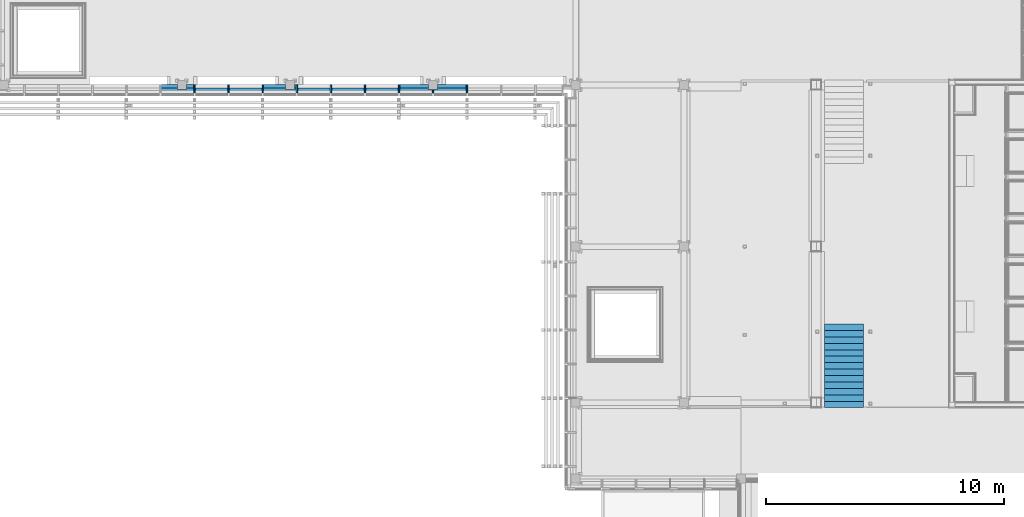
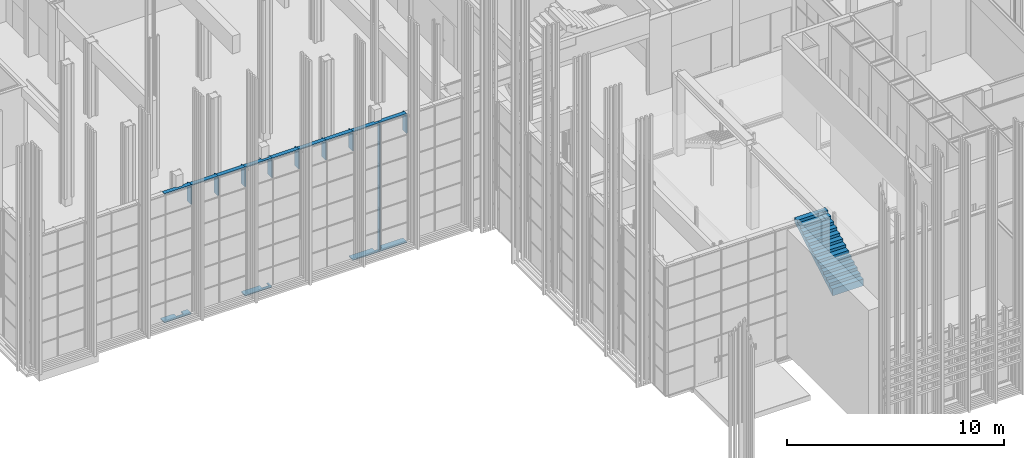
# One storey, part 71 of 260: 28 members, 2 elements without a shape of their own.
"""IFC2X3 building model written with IfcOpenShell, lengths in millimetres."""

from ifc_helpers import new_model, entity, si_unit, converted_unit, derived_unit, money_unit, direction, frame, origin_with_axes, place, context, subcontext, project, spatial, faceted_brep, material, type_object, element, aggregate, save


model = new_model("IFC2X3")

# Units and contexts
model_context = context("Model", 3, precision=0.01, world=origin_with_axes(), true_north=direction((0.0, 1.0)))
body_context = subcontext(model_context, "Body", "Model", "MODEL_VIEW")
ifc_project = project(units=[si_unit("LENGTHUNIT", "METRE", prefix="MILLI"), si_unit("AREAUNIT", "SQUARE_METRE"), si_unit("VOLUMEUNIT", "CUBIC_METRE"), converted_unit("PLANEANGLEUNIT", "DEGREE", entity("IfcPlaneAngleMeasure", 0.0174532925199), si_unit("PLANEANGLEUNIT", "RADIAN"), dimensions=[0, 0, 0, 0, 0, 0, 0]), money_unit("EUR"), converted_unit("TIMEUNIT", "Year", entity("IfcTimeMeasure", 31556926.0), si_unit("TIMEUNIT", "SECOND"), dimensions=[0, 0, 1, 0, 0, 0, 0]), si_unit("MASSUNIT", "GRAM", prefix="KILO"), si_unit("THERMODYNAMICTEMPERATUREUNIT", "DEGREE_CELSIUS"), si_unit("LUMINOUSINTENSITYUNIT", "LUMEN"), si_unit("ENERGYUNIT", "JOULE", prefix="MEGA"), derived_unit("THERMALCONDUCTANCEUNIT", [(si_unit("POWERUNIT", "WATT"), 1), (si_unit("LENGTHUNIT", "METRE"), -1), (si_unit("THERMODYNAMICTEMPERATUREUNIT", "KELVIN"), -1)]), derived_unit("SPECIFICHEATCAPACITYUNIT", [(si_unit("ENERGYUNIT", "JOULE"), 1), (si_unit("MASSUNIT", "GRAM", prefix="KILO"), -1), (si_unit("THERMODYNAMICTEMPERATUREUNIT", "KELVIN"), -1)]), derived_unit("MASSDENSITYUNIT", [(si_unit("MASSUNIT", "GRAM", prefix="KILO"), 1), (si_unit("VOLUMEUNIT", "CUBIC_METRE"), -1)])], contexts=[model_context])

# Site, building, storey
site_placement = place(None, origin_with_axes())
site = spatial("IfcSite", under=ifc_project, at=site_placement, Name="Kolde pst 67a", CompositionType="ELEMENT")
building_placement = place(site_placement, origin_with_axes())
building = spatial("IfcBuilding", under=site, at=building_placement, Name="Riigigümnaasium", CompositionType="ELEMENT")
storey_placement = place(building_placement, origin_with_axes())
storey = spatial("IfcBuildingStorey", under=building, at=storey_placement, Name="1. korrus", CompositionType="ELEMENT", Elevation=0.0)

# Stair, member
stair_placement = place(storey_placement, frame((58669.9488956, 10689.9598901, 0.0), z_axis=(0.0, 0.0, 1.0), x_axis=(1.0, 0.0, 0.0)))
stair = element("IfcStair", 1, at=stair_placement, inside=storey, Name="TREPP", ShapeType="NOTDEFINED")
ifc_material_1 = material(Name="_KANDETARIND - raudbetoon C25/30 vastavalt EK osale")
member_type_1 = type_object("IfcMemberType", Name="IfcMember", PredefinedType="USERDEFINED")
member_1_placement = place(stair_placement, origin_with_axes())
member_1 = element("IfcMember", 2, at=member_1_placement, type_object=member_type_1, material=ifc_material_1, Name="TT KONSTRUKTSIOON - 019", ObjectType="Stair Structure", context=body_context, shape_type="Brep", body=[
    faceted_brep([(1640.0, 180.0, -126.597194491), (1640.0, 270.0, -74.161297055), (1640.0, 360.0, -21.7253996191), (1640.0, 450.0, 30.7104978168), (1640.0, 540.0, 83.1463952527), (1640.0, 630.0, 135.582292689), (1640.0, 720.0, 188.018190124), (1640.0, 810.0, 240.45408756), (1640.0, 900.0, 292.889984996), (1640.0, 990.0, 345.325882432), (1640.0, 1080.0, 397.761779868), (1640.0, 1170.0, 450.197677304), (1640.0, 1260.0, 502.63357474), (1640.0, 1350.0, 555.069472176), (1640.0, 1440.0, 607.505369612), (1640.0, 1530.0, 659.941267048), (1640.0, 1620.0, 712.377164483), (1640.0, 1710.0, 764.813061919), (1640.0, 1800.0, 817.248959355), (1640.0, 1890.0, 869.684856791), (1640.0, 1980.0, 922.120754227), (1640.0, 2070.0, 974.556651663), (1640.0, 2160.0, 1026.9925491), (1640.0, 2250.0, 1079.42844653), (1640.0, 2340.0, 1131.86434397), (1640.0, 2430.0, 1184.30024141), (1640.0, 2520.0, 1236.73613884), (1640.0, 2610.0, 1289.17203628), (1640.0, 2700.0, 1341.60793371), (1640.0, 2790.0, 1394.04383115), (1640.0, 2880.0, 1446.47972859), (1640.0, 2970.0, 1498.91562602), (1640.0, 3060.0, 1551.35152346), (1640.0, 3150.0, 1603.78742089), (1640.0, 3240.0, 1656.22331833), (1640.0, 3330.0, 1708.65921577), (1640.0, 3420.0, 1761.0951132), (1640.0, 3510.0, 1813.53101064), (1640.0, 3510.0, 2045.0), (1640.0, 3240.0, 2045.0), (1640.0, 3240.0, 1887.69230769), (1640.0, 2970.0, 1887.69230769), (1640.0, 2970.0, 1730.38461538), (1640.0, 2700.0, 1730.38461538), (1640.0, 2700.0, 1573.07692308), (1640.0, 2430.0, 1573.07692308), (1640.0, 2430.0, 1415.76923077), (1640.0, 2160.0, 1415.76923077), (1640.0, 2160.0, 1258.46153846), (1640.0, 1890.0, 1258.46153846), (1640.0, 1890.0, 1101.15384615), (1640.0, 1620.0, 1101.15384615), (1640.0, 1620.0, 943.846153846), (1640.0, 1350.0, 943.846153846), (1640.0, 1350.0, 786.538461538), (1640.0, 1080.0, 786.538461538), (1640.0, 1080.0, 629.230769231), (1640.0, 810.0, 629.230769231), (1640.0, 810.0, 471.923076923), (1640.0, 540.0, 471.923076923), (1640.0, 540.0, 314.615384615), (1640.0, 270.0, 314.615384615), (1640.0, 270.0, 157.307692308), (1640.0, 0.0, 157.307692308), (1640.0, 0.0, -231.468989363), (1640.0, 90.0, -179.033091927), (0.0, 180.0, -126.597194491), (0.0, 270.0, -74.161297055), (0.0, 360.0, -21.7253996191), (0.0, 450.0, 30.7104978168), (0.0, 540.0, 83.1463952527), (0.0, 630.0, 135.582292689), (0.0, 720.0, 188.018190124), (0.0, 810.0, 240.45408756), (0.0, 900.0, 292.889984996), (0.0, 990.0, 345.325882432), (0.0, 1080.0, 397.761779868), (0.0, 1170.0, 450.197677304), (0.0, 1260.0, 502.63357474), (0.0, 1350.0, 555.069472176), (0.0, 1440.0, 607.505369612), (0.0, 1530.0, 659.941267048), (0.0, 1620.0, 712.377164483), (0.0, 1710.0, 764.813061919), (0.0, 1800.0, 817.248959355), (0.0, 1890.0, 869.684856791), (0.0, 1980.0, 922.120754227), (0.0, 2070.0, 974.556651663), (0.0, 2160.0, 1026.9925491), (0.0, 2250.0, 1079.42844653), (0.0, 2340.0, 1131.86434397), (0.0, 2430.0, 1184.30024141), (0.0, 2520.0, 1236.73613884), (0.0, 2610.0, 1289.17203628), (0.0, 2700.0, 1341.60793371), (0.0, 2790.0, 1394.04383115), (0.0, 2880.0, 1446.47972859), (0.0, 2970.0, 1498.91562602), (0.0, 3060.0, 1551.35152346), (0.0, 3150.0, 1603.78742089), (0.0, 3240.0, 1656.22331833), (0.0, 3330.0, 1708.65921577), (0.0, 3420.0, 1761.0951132), (0.0, 3510.0, 1813.53101064), (0.0, 3510.0, 2045.0), (0.0, 3240.0, 2045.0), (0.0, 3240.0, 1887.69230769), (0.0, 2970.0, 1887.69230769), (0.0, 2970.0, 1730.38461538), (0.0, 2700.0, 1730.38461538), (0.0, 2700.0, 1573.07692308), (0.0, 2430.0, 1573.07692308), (0.0, 2430.0, 1415.76923077), (0.0, 2160.0, 1415.76923077), (0.0, 2160.0, 1258.46153846), (0.0, 1890.0, 1258.46153846), (0.0, 1890.0, 1101.15384615), (0.0, 1620.0, 1101.15384615), (0.0, 1620.0, 943.846153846), (0.0, 1350.0, 943.846153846), (0.0, 1350.0, 786.538461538), (0.0, 1080.0, 786.538461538), (0.0, 1080.0, 629.230769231), (0.0, 810.0, 629.230769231), (0.0, 810.0, 471.923076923), (0.0, 540.0, 471.923076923), (0.0, 540.0, 314.615384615), (0.0, 270.0, 314.615384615), (0.0, 270.0, 157.307692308), (0.0, 0.0, 157.307692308), (0.0, 0.0, -231.468989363), (0.0, 90.0, -179.033091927)], [[[0, 1, 2, 3, 4, 5, 6, 7, 8, 9, 10, 11, 12, 13, 14, 15, 16, 17, 18, 19, 20, 21, 22, 23, 24, 25, 26, 27, 28, 29, 30, 31, 32, 33, 34, 35, 36, 37, 38, 39, 40, 41, 42, 43, 44, 45, 46, 47, 48, 49, 50, 51, 52, 53, 54, 55, 56, 57, 58, 59, 60, 61, 62, 63, 64, 65]], [[66, 67, 1, 0]], [[67, 68, 2, 1]], [[68, 69, 3, 2]], [[69, 70, 4, 3]], [[70, 71, 5, 4]], [[71, 72, 6, 5]], [[72, 73, 7, 6]], [[73, 74, 8, 7]], [[74, 75, 9, 8]], [[75, 76, 10, 9]], [[76, 77, 11, 10]], [[77, 78, 12, 11]], [[78, 79, 13, 12]], [[79, 80, 14, 13]], [[80, 81, 15, 14]], [[81, 82, 16, 15]], [[82, 83, 17, 16]], [[83, 84, 18, 17]], [[84, 85, 19, 18]], [[85, 86, 20, 19]], [[86, 87, 21, 20]], [[87, 88, 22, 21]], [[88, 89, 23, 22]], [[89, 90, 24, 23]], [[90, 91, 25, 24]], [[91, 92, 26, 25]], [[92, 93, 27, 26]], [[93, 94, 28, 27]], [[94, 95, 29, 28]], [[95, 96, 30, 29]], [[96, 97, 31, 30]], [[97, 98, 32, 31]], [[98, 99, 33, 32]], [[99, 100, 34, 33]], [[100, 101, 35, 34]], [[101, 102, 36, 35]], [[102, 103, 37, 36]], [[104, 38, 37, 103]], [[105, 39, 38, 104]], [[105, 106, 40, 39]], [[41, 40, 106, 107]], [[107, 108, 42, 41]], [[43, 42, 108, 109]], [[109, 110, 44, 43]], [[45, 44, 110, 111]], [[111, 112, 46, 45]], [[47, 46, 112, 113]], [[113, 114, 48, 47]], [[49, 48, 114, 115]], [[115, 116, 50, 49]], [[51, 50, 116, 117]], [[117, 118, 52, 51]], [[53, 52, 118, 119]], [[119, 120, 54, 53]], [[55, 54, 120, 121]], [[121, 122, 56, 55]], [[57, 56, 122, 123]], [[123, 124, 58, 57]], [[59, 58, 124, 125]], [[125, 126, 60, 59]], [[61, 60, 126, 127]], [[127, 128, 62, 61]], [[63, 62, 128, 129]], [[63, 129, 130, 64]], [[130, 131, 65, 64]], [[131, 66, 0, 65]], [[101, 100, 99, 98, 97, 96, 95, 94, 93, 92, 91, 90, 89, 88, 87, 86, 85, 84, 83, 82, 81, 80, 79, 78, 77, 76, 75, 74, 73, 72, 71, 70, 69, 68, 67, 66, 131, 130, 129, 128, 127, 126, 125, 124, 123, 122, 121, 120, 119, 118, 117, 116, 115, 114, 113, 112, 111, 110, 109, 108, 107, 106, 105, 104, 103, 102]]]),
])
aggregate(stair, [member_1])

# Curtain wall, members
curtain_wall_type = type_object("IfcCurtainWallType", Name="Curtain Wall Type", PredefinedType="NOTDEFINED")
curtain_wall_placement = place(storey_placement, frame((23890.0026791, 27220.1832522, -0.000253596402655), z_axis=(0.0, 0.0, 1.0), x_axis=(1.0, 0.0, 0.0)))
curtain_wall = element("IfcCurtainWall", 3, at=curtain_wall_placement, inside=storey, type_object=curtain_wall_type, Name="Klaasfassaadi puitkarkass")
ifc_material_2 = material(Name="_KANDETARIND - liimpuit vastavalt EK osale")
member_type_2 = type_object("IfcMemberType", Name="Boundary Frame 60 x 360", PredefinedType="MEMBER")
member_2_placement = place(curtain_wall_placement, frame((19789.3770557, -3330.16844545, 0.000124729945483), z_axis=(-1.0, 0.0, 0.0), x_axis=(0.0, 0.0, 1.0)))
member_2 = element("IfcMember", 4, at=member_2_placement, type_object=member_type_2, material=ifc_material_2, Name="RF RAAM SERV-665", ObjectType="MEMBER", context=body_context, shape_type="Brep", body=[
    faceted_brep([(0.000128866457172, 360.0, 1249.38050477), (60.0, 360.0, 1249.38050477), (60.0, 360.0, 0.0), (0.0, 360.0, 0.0), (60.0, 150.255589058, 1249.38050479), (0.000128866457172, 150.255589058, 1249.38050479), (60.0, 150.255589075, 1430.0), (60.0, 0.0, 1430.0), (60.0, 0.0, 0.0), (0.0, 0.0, 0.0), (0.0, 0.0, 1430.0), (0.000128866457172, 150.255589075, 1430.0)], [[[0, 1, 2, 3]], [[4, 1, 0, 5]], [[4, 6, 7, 8, 2, 1]], [[3, 2, 8, 9]], [[5, 0, 3, 9, 10, 11]], [[6, 4, 5, 11]], [[6, 11, 10, 7]], [[9, 8, 7, 10]]]),
])
member_3_placement = place(curtain_wall_placement, frame((18359.3770557, -3330.16844558, 0.000124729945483), z_axis=(-1.0, 0.0, 0.0), x_axis=(0.0, 0.0, 1.0)))
member_3 = element("IfcMember", 5, at=member_3_placement, type_object=member_type_2, material=ifc_material_2, Name="RF RAAM SERV-666", ObjectType="MEMBER", context=body_context, shape_type="Brep", body=[
    faceted_brep([(0.000128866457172, 150.255589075, 0.0), (60.0, 150.255589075, 0.0), (60.0, 0.0, 0.0), (0.0, 0.0, 0.0), (60.0, 150.255589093, 199.380504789), (0.000128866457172, 150.255589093, 199.380504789), (60.0, 360.0, 199.38050477), (60.0, 360.0, 1430.0), (60.0, 0.0, 1430.0), (0.0, 0.0, 1430.0), (0.0, 360.0, 1430.0), (0.000128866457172, 360.0, 199.38050477)], [[[0, 1, 2, 3]], [[4, 1, 0, 5]], [[4, 6, 7, 8, 2, 1]], [[3, 2, 8, 9]], [[5, 0, 3, 9, 10, 11]], [[11, 6, 4, 5]], [[6, 11, 10, 7]], [[8, 7, 10, 9]]]),
])
member_4_placement = place(curtain_wall_placement, frame((12639.3770557, -3330.1684461, 0.000124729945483), z_axis=(-1.0, 0.0, 0.0), x_axis=(0.0, 0.0, 1.0)))
member_4 = element("IfcMember", 6, at=member_4_placement, type_object=member_type_2, material=ifc_material_2, Name="RF RAAM SERV-670", ObjectType="MEMBER", context=body_context, shape_type="Brep", body=[
    faceted_brep([(0.000128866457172, 360.0, 89.38050477), (60.0, 360.0, 89.38050477), (60.0, 360.0, 0.0), (0.0, 360.0, 0.0), (60.0, 150.255589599, 89.3805047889), (0.000128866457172, 150.255589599, 89.3805047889), (60.0, 150.255589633, 469.380504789), (60.0, 360.0, 469.38050477), (60.0, 360.0, 1430.0), (60.0, 0.0, 1430.0), (60.0, 0.0, 0.0), (0.0, 0.0, 0.0), (0.0, 0.0, 1430.0), (0.0, 360.0, 1430.0), (0.000128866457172, 360.0, 469.38050477), (0.000128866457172, 150.255589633, 469.380504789)], [[[0, 1, 2, 3]], [[4, 1, 0, 5]], [[6, 7, 8, 9, 10, 2, 1, 4]], [[3, 2, 10, 11]], [[5, 0, 3, 11, 12, 13, 14, 15]], [[6, 4, 5, 15]], [[14, 7, 6, 15]], [[7, 14, 13, 8]], [[9, 8, 13, 12]], [[11, 10, 9, 12]]]),
])
member_5_placement = place(curtain_wall_placement, frame((8349.37705572, -3330.16844648, 0.000124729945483), z_axis=(-1.0, 0.0, 0.0), x_axis=(0.0, 0.0, 1.0)))
member_5 = element("IfcMember", 7, at=member_5_placement, type_object=member_type_2, material=ifc_material_2, Name="RF RAAM SERV-673", ObjectType="MEMBER", context=body_context, shape_type="Brep", body=[
    faceted_brep([(0.000128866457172, 360.0, 349.376955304), (60.0, 360.0, 349.376955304), (60.0, 360.0, 0.0), (0.0, 360.0, 0.0), (60.0, 150.255590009, 349.376955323), (0.000128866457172, 150.255590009, 349.376955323), (60.0, 150.255590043, 729.376955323), (60.0, 360.0, 729.376955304), (60.0, 360.0, 1430.0), (60.0, 0.0, 1430.0), (60.0, 0.0, 0.0), (0.0, 0.0, 0.0), (0.0, 0.0, 1430.0), (0.0, 360.0, 1430.0), (0.000128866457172, 360.0, 729.376955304), (0.000128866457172, 150.255590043, 729.376955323)], [[[0, 1, 2, 3]], [[4, 1, 0, 5]], [[6, 7, 8, 9, 10, 2, 1, 4]], [[3, 2, 10, 11]], [[5, 0, 3, 11, 12, 13, 14, 15]], [[6, 4, 5, 15]], [[14, 7, 6, 15]], [[7, 14, 13, 8]], [[9, 8, 13, 12]], [[11, 10, 9, 12]]]),
])
member_6_placement = place(curtain_wall_placement, frame((18359.3770557, -3330.16844558, 7259.99988018), z_axis=(1.0, 0.0, -9.10009721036e-09), x_axis=(-9.10009721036e-09, 0.0, -1.0)))
member_6 = element("IfcMember", 8, at=member_6_placement, type_object=member_type_2, material=ifc_material_2, Name="RF RAAM SERV-698", ObjectType="MEMBER", context=body_context, shape_type="Brep", body=[
    faceted_brep([(59.9996135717, 220.194597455, 1430.00000055), (-1.30131390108e-05, 220.194597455, 1430.0), (-1.30131390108e-05, 0.0, 1430.0), (59.9999869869, 0.0, 1430.00000055), (-1.64360169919e-06, 220.255588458, 180.613637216), (59.9996249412, 220.255588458, 180.613637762), (-1.64365498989e-06, 150.255589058, 180.619495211), (0.0, 150.255589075, 0.0), (0.0, 0.0, 0.0), (60.0, 0.0, 5.46009459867e-07), (60.0, 150.255589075, 5.46009459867e-07), (59.9999983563, 150.255589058, 180.619495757)], [[[0, 1, 2, 3]], [[4, 1, 0, 5]], [[1, 4, 6, 7, 8, 2]], [[9, 3, 2, 8]], [[5, 0, 3, 9, 10, 11]], [[4, 5, 11, 6]], [[6, 11, 10, 7]], [[10, 9, 8, 7]]]),
])
member_7_placement = place(curtain_wall_placement, frame((16929.3770557, -3330.16844571, 7259.99989319), z_axis=(1.0, 0.0, -9.10009721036e-09), x_axis=(-9.10009721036e-09, 0.0, -1.0)))
member_7 = element("IfcMember", 9, at=member_7_placement, type_object=member_type_2, material=ifc_material_2, Name="RF RAAM SERV-697", ObjectType="MEMBER", context=body_context, shape_type="Brep", body=[
    faceted_brep([(59.9996283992, 220.255589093, 1230.61949576), (-1.11987565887e-05, 220.255589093, 1230.61949522), (-1.11987565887e-05, 150.255589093, 1230.61949521), (59.9999888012, 150.255589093, 1230.61949576), (0.0, 220.255589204, 0.0), (59.9996395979, 220.255589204, 5.4600235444e-07), (0.0, 0.0, 0.0), (-1.30131390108e-05, 0.0, 1430.0), (-1.30131390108e-05, 150.255589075, 1430.0), (59.9999869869, 150.255589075, 1430.00000055), (59.9999869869, 0.0, 1430.00000055), (60.0, 0.0, 5.46009459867e-07)], [[[0, 1, 2, 3]], [[4, 1, 0, 5]], [[1, 4, 6, 7, 8, 2]], [[3, 2, 8, 9]], [[5, 0, 3, 9, 10, 11]], [[4, 5, 11, 6]], [[7, 6, 11, 10]], [[10, 9, 8, 7]]]),
])
member_8_placement = place(curtain_wall_placement, frame((15499.3770557, -3330.16844584, 7259.99990621), z_axis=(1.0, 0.0, -9.10009721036e-09), x_axis=(-9.10009721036e-09, 0.0, -1.0)))
member_8 = element("IfcMember", 10, at=member_8_placement, type_object=member_type_2, material=ifc_material_2, Name="RF RAAM SERV-696", ObjectType="MEMBER", context=body_context, shape_type="Brep", body=[
    faceted_brep([(59.9996395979, 220.255589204, 1430.00000055), (-1.30131390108e-05, 220.255589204, 1430.0), (-1.30131390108e-05, 0.0, 1430.0), (59.9999869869, 0.0, 1430.00000055), (0.0, 220.255589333, 0.0), (59.9996526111, 220.255589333, 5.4600235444e-07), (0.0, 0.0, 0.0), (60.0, 0.0, 5.46009459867e-07)], [[[0, 1, 2, 3]], [[4, 1, 0, 5]], [[1, 4, 6, 2]], [[6, 7, 3, 2]], [[5, 0, 3, 7]], [[4, 5, 7, 6]]]),
])
member_9_placement = place(curtain_wall_placement, frame((14069.3770557, -3330.16844597, 7259.99991922), z_axis=(1.0, 0.0, -9.10009658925e-09), x_axis=(-9.10009658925e-09, 0.0, -1.0)))
member_9 = element("IfcMember", 11, at=member_9_placement, type_object=member_type_2, material=ifc_material_2, Name="RF RAAM SERV-695", ObjectType="MEMBER", context=body_context, shape_type="Brep", body=[
    faceted_brep([(59.9996526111, 220.255589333, 1430.00000055), (-1.30131381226e-05, 220.255589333, 1430.0), (-1.30131381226e-05, 0.0, 1430.0), (59.9999869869, 0.0, 1430.00000055), (0.0, 220.255589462, 0.0), (59.9996656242, 220.255589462, 5.4600235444e-07), (0.0, 0.0, 0.0), (60.0, 0.0, 5.4600235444e-07)], [[[0, 1, 2, 3]], [[4, 1, 0, 5]], [[1, 4, 6, 2]], [[6, 7, 3, 2]], [[5, 0, 3, 7]], [[4, 5, 7, 6]]]),
])
member_10_placement = place(curtain_wall_placement, frame((12639.3770557, -3330.1684461, 7259.99993223), z_axis=(1.0, 0.0, -9.10009721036e-09), x_axis=(-9.10009721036e-09, 0.0, -1.0)))
member_10 = element("IfcMember", 12, at=member_10_placement, type_object=member_type_2, material=ifc_material_2, Name="RF RAAM SERV-694", ObjectType="MEMBER", context=body_context, shape_type="Brep", body=[
    faceted_brep([(59.9996656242, 220.255589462, 1430.00000055), (-1.30131390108e-05, 220.255589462, 1430.0), (-1.30131390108e-05, 0.0, 1430.0), (59.9999869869, 0.0, 1430.00000055), (0.0, 220.255589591, 0.0), (59.9996786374, 220.255589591, 5.4600235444e-07), (0.0, 0.0, 0.0), (60.0, 0.0, 5.46009459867e-07)], [[[0, 1, 2, 3]], [[4, 1, 0, 5]], [[1, 4, 6, 2]], [[6, 7, 3, 2]], [[5, 0, 3, 7]], [[4, 5, 7, 6]]]),
])
member_11_placement = place(curtain_wall_placement, frame((11209.3770557, -3330.16844623, 7259.99994525), z_axis=(1.0, 0.0, -9.10009721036e-09), x_axis=(-9.10009721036e-09, 0.0, -1.0)))
member_11 = element("IfcMember", 13, at=member_11_placement, type_object=member_type_2, material=ifc_material_2, Name="RF RAAM SERV-693", ObjectType="MEMBER", context=body_context, shape_type="Brep", body=[
    faceted_brep([(59.9996786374, 220.255589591, 1430.00000055), (-1.30131390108e-05, 220.255589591, 1430.0), (-1.30131390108e-05, 0.0, 1430.0), (59.9999869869, 0.0, 1430.00000055), (-1.21997674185e-05, 220.255589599, 1340.61949522), (59.9996794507, 220.255589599, 1340.61949576), (-1.21997674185e-05, 150.255589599, 1340.61949521), (-8.74173089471e-06, 150.255589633, 960.619495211), (-8.74173089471e-06, 360.0, 960.61949523), (-8.73242811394e-06, 360.0, 959.597297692), (-8.73242811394e-06, 220.255589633, 959.597297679), (0.0, 220.25558972, 0.0), (0.0, 0.0, 0.0), (60.0, 0.0, 5.46009459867e-07), (59.9996916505, 220.25558972, 5.4600235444e-07), (59.9996829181, 220.255589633, 959.597298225), (59.9996829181, 360.0, 959.597298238), (59.9999912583, 360.0, 960.619495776), (59.9999912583, 150.255589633, 960.619495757), (59.9999878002, 150.255589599, 1340.61949576)], [[[0, 1, 2, 3]], [[4, 1, 0, 5]], [[1, 4, 6, 7, 8, 9, 10, 11, 12, 2]], [[3, 2, 12, 13]], [[5, 0, 3, 13, 14, 15, 16, 17, 18, 19]], [[4, 5, 19, 6]], [[19, 18, 7, 6]], [[7, 18, 17, 8]], [[17, 16, 9, 8]], [[15, 10, 9, 16]], [[14, 11, 10, 15]], [[12, 11, 14, 13]]]),
])
member_12_placement = place(curtain_wall_placement, frame((9779.37705572, -3330.16844635, 7259.99995826), z_axis=(1.0, 0.0, -9.10009596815e-09), x_axis=(-9.10009596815e-09, 0.0, -1.0)))
member_12 = element("IfcMember", 14, at=member_12_placement, type_object=member_type_2, material=ifc_material_2, Name="RF RAAM SERV-692", ObjectType="MEMBER", context=body_context, shape_type="Brep", body=[
    faceted_brep([(59.9996916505, 220.25558972, 1430.00000055), (-1.30131372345e-05, 220.25558972, 1430.0), (-1.30131372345e-05, 0.0, 1430.0), (59.9999869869, 0.0, 1430.00000055), (0.0, 220.255589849, 0.0), (59.9997046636, 220.255589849, 5.46009459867e-07), (0.0, 0.0, 0.0), (60.0, 0.0, 5.46009459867e-07)], [[[0, 1, 2, 3]], [[4, 1, 0, 5]], [[1, 4, 6, 2]], [[6, 7, 3, 2]], [[5, 0, 3, 7]], [[4, 5, 7, 6]]]),
])
member_13_placement = place(curtain_wall_placement, frame((8349.37705572, -3330.16844648, 7259.99997127), z_axis=(1.0, 0.0, -9.10009845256e-09), x_axis=(-9.10009845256e-09, 0.0, -1.0)))
member_13 = element("IfcMember", 15, at=member_13_placement, type_object=member_type_2, material=ifc_material_2, Name="RF RAAM SERV-691", ObjectType="MEMBER", context=body_context, shape_type="Brep", body=[
    faceted_brep([(59.9997046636, 220.255589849, 1430.00000055), (-1.30131407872e-05, 220.255589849, 1430.0), (-1.30131407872e-05, 0.0, 1430.0), (59.9999869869, 0.0, 1430.00000055), (0.0, 220.255589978, 0.0), (59.9997176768, 220.255589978, 5.4600235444e-07), (0.0, 0.0, 0.0), (60.0, 0.0, 5.4600235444e-07)], [[[0, 1, 2, 3]], [[4, 1, 0, 5]], [[1, 4, 6, 2]], [[6, 7, 3, 2]], [[5, 0, 3, 7]], [[4, 5, 7, 6]]]),
])
member_14_placement = place(curtain_wall_placement, frame((6919.37705572, -3330.16844661, 7259.99998429), z_axis=(1.0, 0.0, -9.10009596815e-09), x_axis=(-9.10009596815e-09, 0.0, -1.0)))
member_14 = element("IfcMember", 16, at=member_14_placement, type_object=member_type_2, material=ifc_material_2, Name="RF RAAM SERV-690", ObjectType="MEMBER", context=body_context, shape_type="Brep", body=[
    faceted_brep([(59.9997176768, 220.255589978, 1430.00000055), (-1.30131372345e-05, 220.255589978, 1430.0), (-1.30131372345e-05, 0.0, 1430.0), (59.9999869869, 0.0, 1430.00000055), (-9.83377290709e-06, 220.255590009, 1080.62304468), (59.9997208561, 220.255590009, 1080.62304523), (-9.83377290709e-06, 150.255590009, 1080.62304468), (-6.37573638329e-06, 150.255590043, 700.623044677), (-6.37573638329e-06, 220.255590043, 700.623044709), (0.0, 220.255589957, 0.0), (0.0, 0.0, 0.0), (60.0, 0.0, 5.46005907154e-07), (59.9997369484, 220.255589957, 5.4600235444e-07), (59.9997305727, 220.255590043, 700.623045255), (59.9999936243, 150.255590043, 700.623045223), (59.9999901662, 150.255590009, 1080.62304522)], [[[0, 1, 2, 3]], [[4, 1, 0, 5]], [[1, 4, 6, 7, 8, 9, 10, 2]], [[3, 2, 10, 11]], [[5, 0, 3, 11, 12, 13, 14, 15]], [[4, 5, 15, 6]], [[15, 14, 7, 6]], [[14, 13, 8, 7]], [[12, 9, 8, 13]], [[10, 9, 12, 11]]]),
])
member_type_3 = type_object("IfcMemberType", Name="Mullion Frame 60 x 360", PredefinedType="MEMBER")
member_15_placement = place(curtain_wall_placement, frame((18359.3770557, -3330.16844558, 0.000124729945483), z_axis=(0.0, 0.0, 1.0), x_axis=(1.0, 0.0, 0.0)))
member_15 = element("IfcMember", 17, at=member_15_placement, type_object=member_type_3, material=ifc_material_2, Name="RF RAAM VERT-837", ObjectType="MEMBER", context=body_context, shape_type="Brep", body=[
    faceted_brep([(30.0000000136, 150.255589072, 60.0), (30.0000000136, 150.255589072, 1230.0002536), (30.0, -2.70716782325e-09, 1230.0002536), (30.0, -2.70716782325e-09, 60.0), (-29.9999999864, 150.255589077, 1230.0002536), (-29.9999999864, 150.255589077, 60.0), (-30.0, 2.70361510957e-09, 1230.0002536), (-30.0, 2.70361510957e-09, 60.0)], [[[0, 1, 2, 3]], [[4, 1, 0, 5]], [[1, 4, 6, 2]], [[6, 7, 3, 2]], [[5, 0, 3, 7]], [[4, 5, 7, 6]]]),
])
member_16_placement = place(curtain_wall_placement, frame((18359.3770557, -3330.16844558, 1230.0002536), z_axis=(0.0, 0.0, 1.0), x_axis=(1.0, 0.0, 0.0)))
member_16 = element("IfcMember", 18, at=member_16_placement, type_object=member_type_3, material=ifc_material_2, Name="RF RAAM VERT-837", ObjectType="MEMBER", context=body_context, shape_type="Brep", body=[
    faceted_brep([(30.0000000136, 150.255589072, 0.0), (30.0000000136, 150.255589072, 1230.0), (30.0, -2.70716782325e-09, 1230.0), (30.0, -2.70716782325e-09, 0.0), (-29.9999999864, 150.255589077, 1230.0), (-29.9999999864, 150.255589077, 0.0), (-30.0, 2.70361510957e-09, 1230.0), (-30.0, 2.70361510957e-09, 0.0)], [[[0, 1, 2, 3]], [[4, 1, 0, 5]], [[1, 4, 6, 2]], [[7, 3, 2, 6]], [[5, 0, 3, 7]], [[4, 5, 7, 6]]]),
])
member_17_placement = place(curtain_wall_placement, frame((18359.3770557, -3330.16844558, 2460.0002536), z_axis=(0.0, 0.0, 1.0), x_axis=(1.0, 0.0, 0.0)))
member_17 = element("IfcMember", 19, at=member_17_placement, type_object=member_type_3, material=ifc_material_2, Name="RF RAAM VERT-837", ObjectType="MEMBER", context=body_context, shape_type="Brep", body=[
    faceted_brep([(30.0000000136, 150.255589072, 0.0), (30.0000000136, 150.255589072, 1230.0), (30.0, -2.70716782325e-09, 1230.0), (30.0, -2.70716782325e-09, 0.0), (-29.9999999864, 150.255589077, 1230.0), (-29.9999999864, 150.255589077, 0.0), (-30.0, 2.70361510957e-09, 1230.0), (-30.0, 2.70361510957e-09, 0.0)], [[[0, 1, 2, 3]], [[4, 1, 0, 5]], [[1, 4, 6, 2]], [[7, 3, 2, 6]], [[5, 0, 3, 7]], [[4, 5, 7, 6]]]),
])
member_18_placement = place(curtain_wall_placement, frame((18359.3770557, -3330.16844558, 3690.0002536), z_axis=(0.0, 0.0, 1.0), x_axis=(1.0, 0.0, 0.0)))
member_18 = element("IfcMember", 20, at=member_18_placement, type_object=member_type_3, material=ifc_material_2, Name="RF RAAM VERT-837", ObjectType="MEMBER", context=body_context, shape_type="Brep", body=[
    faceted_brep([(30.0000000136, 150.255589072, 0.0), (30.0000000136, 150.255589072, 1230.0), (30.0, -2.70716782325e-09, 1230.0), (30.0, -2.70716782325e-09, 0.0), (-29.9999999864, 150.255589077, 1230.0), (-29.9999999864, 150.255589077, 0.0), (-30.0, 2.70361510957e-09, 1230.0), (-30.0, 2.70361510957e-09, 0.0)], [[[0, 1, 2, 3]], [[4, 1, 0, 5]], [[1, 4, 6, 2]], [[7, 3, 2, 6]], [[5, 0, 3, 7]], [[4, 5, 7, 6]]]),
])
member_19_placement = place(curtain_wall_placement, frame((18359.3770557, -3330.16844558, 4920.0002536), z_axis=(0.0, 0.0, 1.0), x_axis=(1.0, 0.0, 0.0)))
member_19 = element("IfcMember", 21, at=member_19_placement, type_object=member_type_3, material=ifc_material_2, Name="RF RAAM VERT-837", ObjectType="MEMBER", context=body_context, shape_type="Brep", body=[
    faceted_brep([(30.0000000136, 150.255589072, 0.0), (30.0000000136, 150.255589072, 1230.0), (30.0, -2.70716782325e-09, 1230.0), (30.0, -2.70716782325e-09, 0.0), (-29.9999999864, 150.255589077, 1230.0), (-29.9999999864, 150.255589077, 0.0), (-30.0, 2.70361510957e-09, 1230.0), (-30.0, 2.70361510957e-09, 0.0)], [[[0, 1, 2, 3]], [[4, 1, 0, 5]], [[1, 4, 6, 2]], [[7, 3, 2, 6]], [[5, 0, 3, 7]], [[4, 5, 7, 6]]]),
])
member_20_placement = place(curtain_wall_placement, frame((19789.3770557, -3330.16844545, 6150.0002536), z_axis=(0.0, 0.0, 1.0), x_axis=(1.0, 0.0, 0.0)))
member_20 = element("IfcMember", 22, at=member_20_placement, type_object=member_type_3, material=ifc_material_2, Name="RF RAAM VERT-155", ObjectType="MEMBER", context=body_context, shape_type="Brep", body=[
    faceted_brep([(30.0, -2.70716782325e-09, 0.0), (30.0000000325, 359.999999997, 0.0), (30.0000000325, 359.999999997, 1049.99958427), (30.0, -2.70716782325e-09, 1049.99958755), (-29.9999999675, 360.000000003, 0.0), (-30.0, 2.70716782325e-09, 0.0), (-29.9999999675, 360.000000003, 1049.99958427), (-30.0, 2.70716782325e-09, 1049.99958755)], [[[0, 1, 2, 3]], [[4, 1, 0, 5]], [[1, 4, 6, 2]], [[3, 2, 6, 7]], [[5, 0, 3, 7]], [[4, 5, 7, 6]]]),
])
member_21_placement = place(curtain_wall_placement, frame((18359.3770557, -3330.16844558, 6150.0002536), z_axis=(0.0, 0.0, 1.0), x_axis=(1.0, 0.0, 0.0)))
member_21 = element("IfcMember", 23, at=member_21_placement, type_object=member_type_3, material=ifc_material_2, Name="RF RAAM VERT-156", ObjectType="MEMBER", context=body_context, shape_type="Brep", body=[
    faceted_brep([(30.0000000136, 150.255589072, 0.0), (30.0000000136, 150.255589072, 1049.99958618), (30.0, -2.70716782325e-09, 1049.99958755), (30.0, -2.70716782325e-09, 0.0), (-29.9999999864, 150.255589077, 1049.99958618), (-29.9999999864, 150.255589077, 0.0), (-30.0, 2.70361510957e-09, 1049.99958755), (-30.0, 2.70361510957e-09, 0.0)], [[[0, 1, 2, 3]], [[4, 1, 0, 5]], [[1, 4, 6, 2]], [[7, 3, 2, 6]], [[5, 0, 3, 7]], [[4, 5, 7, 6]]]),
])
member_22_placement = place(curtain_wall_placement, frame((16929.3770557, -3330.16844571, 6150.0002536), z_axis=(0.0, 0.0, 1.0), x_axis=(1.0, 0.0, 0.0)))
member_22 = element("IfcMember", 24, at=member_22_placement, type_object=member_type_3, material=ifc_material_2, Name="RF RAAM VERT-157", ObjectType="MEMBER", context=body_context, shape_type="Brep", body=[
    faceted_brep([(30.0, -2.70716782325e-09, 0.0), (30.0000000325, 359.999999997, 0.0), (30.0000000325, 359.999999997, 1049.99958427), (30.0, -2.70716782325e-09, 1049.99958755), (-29.9999999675, 360.000000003, 0.0), (-30.0, 2.70716782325e-09, 0.0), (-29.9999999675, 360.000000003, 1049.99958427), (-30.0, 2.70716782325e-09, 1049.99958755)], [[[0, 1, 2, 3]], [[4, 1, 0, 5]], [[1, 4, 6, 2]], [[3, 2, 6, 7]], [[5, 0, 3, 7]], [[4, 5, 7, 6]]]),
])
member_23_placement = place(curtain_wall_placement, frame((15499.3770557, -3330.16844584, 6150.0002536), z_axis=(0.0, 0.0, 1.0), x_axis=(1.0, 0.0, 0.0)))
member_23 = element("IfcMember", 25, at=member_23_placement, type_object=member_type_3, material=ifc_material_2, Name="RF RAAM VERT-158", ObjectType="MEMBER", context=body_context, shape_type="Brep", body=[
    faceted_brep([(30.0, -2.70716782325e-09, 0.0), (30.0000000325, 359.999999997, 0.0), (30.0000000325, 359.999999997, 1049.99958427), (30.0, -2.70716782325e-09, 1049.99958755), (-29.9999999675, 360.000000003, 0.0), (-30.0, 2.70716782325e-09, 0.0), (-29.9999999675, 360.000000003, 1049.99958427), (-30.0, 2.70716782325e-09, 1049.99958755)], [[[0, 1, 2, 3]], [[4, 1, 0, 5]], [[1, 4, 6, 2]], [[3, 2, 6, 7]], [[5, 0, 3, 7]], [[4, 5, 7, 6]]]),
])
member_24_placement = place(curtain_wall_placement, frame((14069.3770557, -3330.16844597, 6150.0002536), z_axis=(0.0, 0.0, 1.0), x_axis=(1.0, 0.0, 0.0)))
member_24 = element("IfcMember", 26, at=member_24_placement, type_object=member_type_3, material=ifc_material_2, Name="RF RAAM VERT-159", ObjectType="MEMBER", context=body_context, shape_type="Brep", body=[
    faceted_brep([(30.0, -2.70716782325e-09, 0.0), (30.0000000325, 359.999999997, 0.0), (30.0000000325, 359.999999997, 1049.99958427), (30.0, -2.70716782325e-09, 1049.99958755), (-29.9999999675, 360.000000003, 0.0), (-30.0, 2.70716782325e-09, 0.0), (-29.9999999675, 360.000000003, 1049.99958427), (-30.0, 2.70716782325e-09, 1049.99958755)], [[[0, 1, 2, 3]], [[4, 1, 0, 5]], [[1, 4, 6, 2]], [[3, 2, 6, 7]], [[5, 0, 3, 7]], [[4, 5, 7, 6]]]),
])
member_25_placement = place(curtain_wall_placement, frame((12639.3770557, -3330.1684461, 6150.0002536), z_axis=(0.0, 0.0, 1.0), x_axis=(1.0, 0.0, 0.0)))
member_25 = element("IfcMember", 27, at=member_25_placement, type_object=member_type_3, material=ifc_material_2, Name="RF RAAM VERT-160", ObjectType="MEMBER", context=body_context, shape_type="Brep", body=[
    faceted_brep([(30.0, -2.70716782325e-09, 0.0), (30.0000000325, 359.999999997, 0.0), (30.0000000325, 359.999999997, 1049.99958427), (30.0, -2.70716782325e-09, 1049.99958755), (-29.9999999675, 360.000000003, 0.0), (-30.0, 2.70361510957e-09, 0.0), (-29.9999999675, 360.000000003, 1049.99958427), (-30.0, 2.70361510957e-09, 1049.99958755)], [[[0, 1, 2, 3]], [[4, 1, 0, 5]], [[1, 4, 6, 2]], [[3, 2, 6, 7]], [[5, 0, 3, 7]], [[4, 5, 7, 6]]]),
])
member_26_placement = place(curtain_wall_placement, frame((11209.3770557, -3330.16844623, 6150.0002536), z_axis=(0.0, 0.0, 1.0), x_axis=(1.0, 0.0, 0.0)))
member_26 = element("IfcMember", 28, at=member_26_placement, type_object=member_type_3, material=ifc_material_2, Name="RF RAAM VERT-227", ObjectType="MEMBER", context=body_context, shape_type="Brep", body=[
    faceted_brep([(30.0, -2.70716782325e-09, 0.0), (30.0000000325, 359.999999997, 0.0), (30.0000000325, 359.999999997, 1049.99958427), (30.0, -2.70716782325e-09, 1049.99958755), (-29.9999999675, 360.000000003, 0.0), (-30.0, 2.70716782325e-09, 0.0), (-29.9999999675, 360.000000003, 1049.99958427), (-30.0, 2.70716782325e-09, 1049.99958755)], [[[0, 1, 2, 3]], [[4, 1, 0, 5]], [[1, 4, 6, 2]], [[3, 2, 6, 7]], [[5, 0, 3, 7]], [[4, 5, 7, 6]]]),
])
member_27_placement = place(curtain_wall_placement, frame((9779.37705572, -3330.16844635, 6150.0002536), z_axis=(0.0, 0.0, 1.0), x_axis=(1.0, 0.0, 0.0)))
member_27 = element("IfcMember", 29, at=member_27_placement, type_object=member_type_3, material=ifc_material_2, Name="RF RAAM VERT-228", ObjectType="MEMBER", context=body_context, shape_type="Brep", body=[
    faceted_brep([(30.0, -2.70716782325e-09, 0.0), (30.0000000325, 359.999999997, 0.0), (30.0000000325, 359.999999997, 1049.99958427), (30.0, -2.70716782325e-09, 1049.99958755), (-29.9999999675, 360.000000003, 0.0), (-30.0, 2.70361510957e-09, 0.0), (-29.9999999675, 360.000000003, 1049.99958427), (-30.0, 2.70361510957e-09, 1049.99958755)], [[[0, 1, 2, 3]], [[4, 1, 0, 5]], [[1, 4, 6, 2]], [[3, 2, 6, 7]], [[5, 0, 3, 7]], [[4, 5, 7, 6]]]),
])
member_28_placement = place(curtain_wall_placement, frame((8349.37705572, -3330.16844648, 6150.0002536), z_axis=(0.0, 0.0, 1.0), x_axis=(1.0, 0.0, 0.0)))
member_28 = element("IfcMember", 30, at=member_28_placement, type_object=member_type_3, material=ifc_material_2, Name="RF RAAM VERT-229", ObjectType="MEMBER", context=body_context, shape_type="Brep", body=[
    faceted_brep([(30.0, -2.70716782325e-09, 0.0), (30.0000000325, 359.999999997, 0.0), (30.0000000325, 359.999999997, 1049.99958427), (30.0, -2.70716782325e-09, 1049.99958755), (-29.9999999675, 360.000000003, 0.0), (-30.0, 2.70716782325e-09, 0.0), (-29.9999999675, 360.000000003, 1049.99958427), (-30.0, 2.70716782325e-09, 1049.99958755)], [[[0, 1, 2, 3]], [[4, 1, 0, 5]], [[1, 4, 6, 2]], [[3, 2, 6, 7]], [[5, 0, 3, 7]], [[4, 5, 7, 6]]]),
])
aggregate(curtain_wall, [member_15, member_16, member_17, member_18, member_19, member_2, member_3, member_4, member_5, member_20, member_21, member_22, member_23, member_24, member_25, member_6, member_7, member_8, member_9, member_10, member_11, member_26, member_12, member_27, member_13, member_28, member_14])

save(model, "model.ifc")
